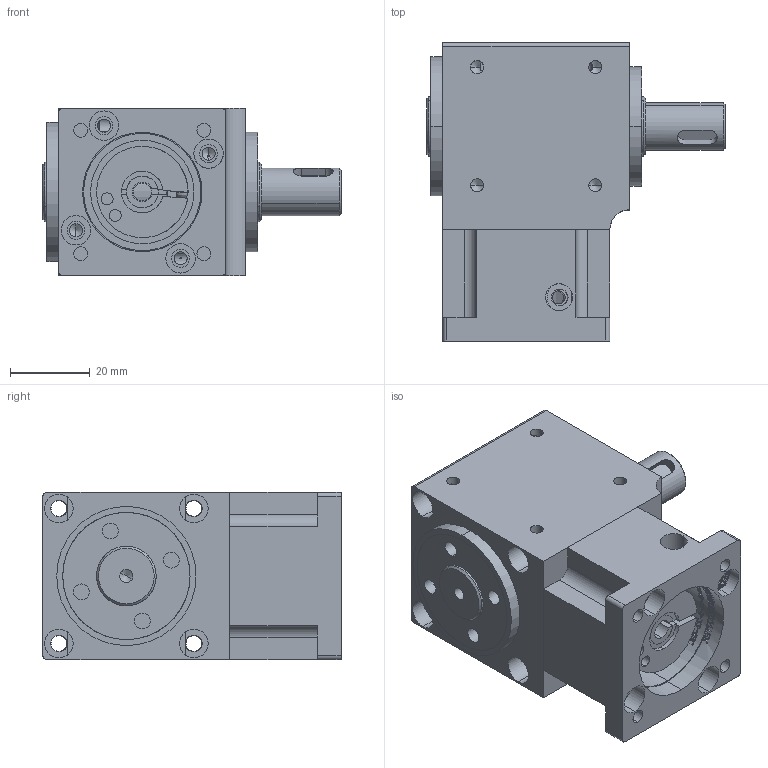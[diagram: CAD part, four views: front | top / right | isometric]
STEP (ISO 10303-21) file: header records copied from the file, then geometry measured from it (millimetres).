
FILE_DESCRIPTION (( 'STEP AP203' ), '1' );
FILE_NAME ('PVFD040等粣-L1 5-22-43.8.STEP', '2023-07-07T06:19:24', ( 'Windows User' ), ( 'P R C' ), 'SwSTEP 2.0', 'SolidWorks 2016', '' );
FILE_SCHEMA (( 'CONFIG_CONTROL_DESIGN' ));
Length unit declared in the file: millimetre
Products named in the file (12): 6001_Rolling bearings 6001 GB 276-94; 6002_Rolling bearings 6002 GB 276-94; 61902_Rolling bearings 61902 GB 276-94; 褲极; 綴楊擘ㄗ祭輛ㄘ; 怀堤粣ㄗ等粣ㄘ; 8-5粣杶; 输入轴; PVFD040等粣-L1 5-22-43.8; 蹟譫; 蹟譫ㄗ2ㄘ; 標杶ㄗ1ㄘ
Assembly tree (11 placements, depth 2):
  PVFD040等粣-L1 5-22-43.8
    褲极
    怀堤粣ㄗ等粣ㄘ
    输入轴
    蹟譫
    蹟譫ㄗ2ㄘ
    標杶ㄗ1ㄘ
    6001_Rolling bearings 6001 GB 276-94
    6002_Rolling bearings 6002 GB 276-94
    61902_Rolling bearings 61902 GB 276-94
    綴楊擘ㄗ祭輛ㄘ
    8-5粣杶
Bounding box: 75 x 75 x 42 mm (x, y, z)
Volume: 97240.2 mm3; surface area: 57633.4 mm2
Topology: 29 solids, 29 shells, 1430 faces, 4208 edges, 2758 vertices
Faces by surface type: plane 612, bspline 477, cylinder 279, cone 62
Entity records: 63525 total; most frequent: CARTESIAN_POINT 27027, ORIENTED_EDGE 8348, DIRECTION 6008, EDGE_CURVE 4174, VERTEX_POINT 2758, AXIS2_PLACEMENT_3D 2130, VECTOR 1748, LINE 1748
